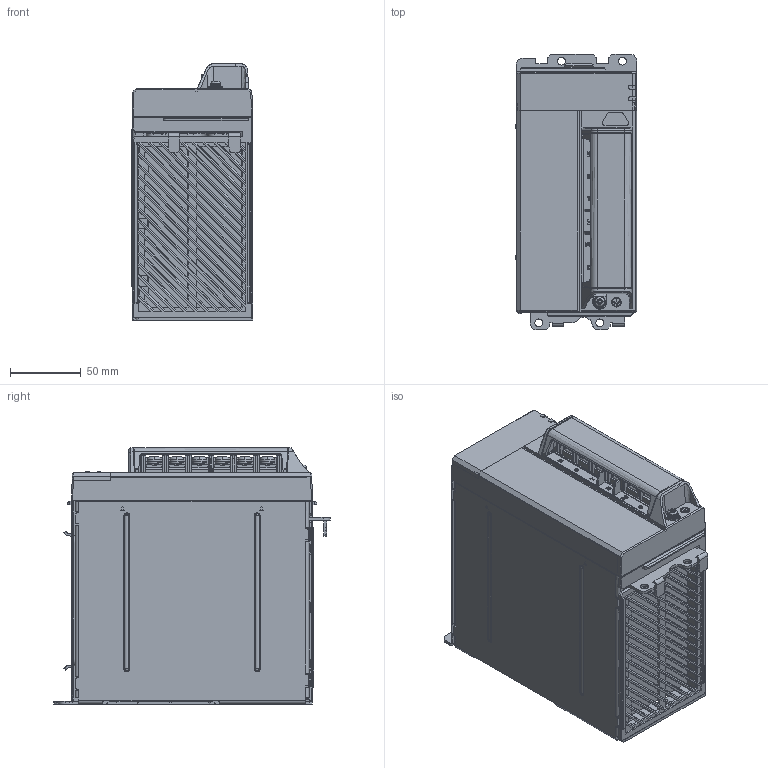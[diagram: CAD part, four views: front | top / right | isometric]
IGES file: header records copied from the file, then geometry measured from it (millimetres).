
Start section:  PTC IGES file: DELTA_IA-ASDA_W3-PM804N-R2_FRAME-B_D-3D-IGS_20250612.igs
Global section: file name: DELTA_IA-ASDA_W3-PM804N-R2_FRAME-B_D-3D-IGS_20250612.igs; native system: Creo Parametric by PTC Inc.; preprocessor: 2024014; author: FREDGT.HUANG; organization: Unknown; date: 20250612.160224; units: millimetre
Bounding box: 85.5 x 195 x 181 mm (x, y, z)
Surface area: 276983 mm2 (no closed solid volume)
Topology: 0 solids, 0 shells, 3235 faces, 18622 edges, 18614 vertices
Faces by surface type: bspline 2353, revolution 832, extrusion 50
